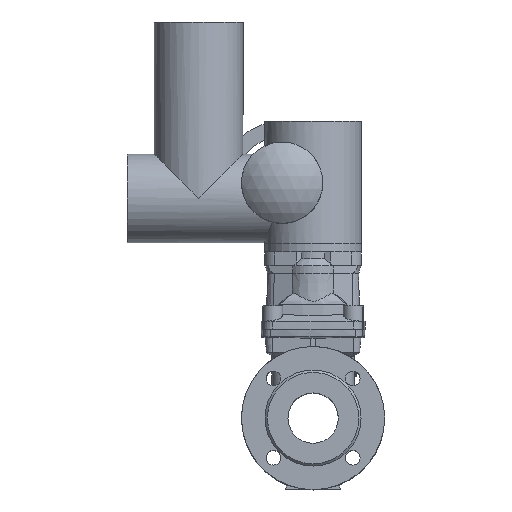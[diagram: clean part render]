
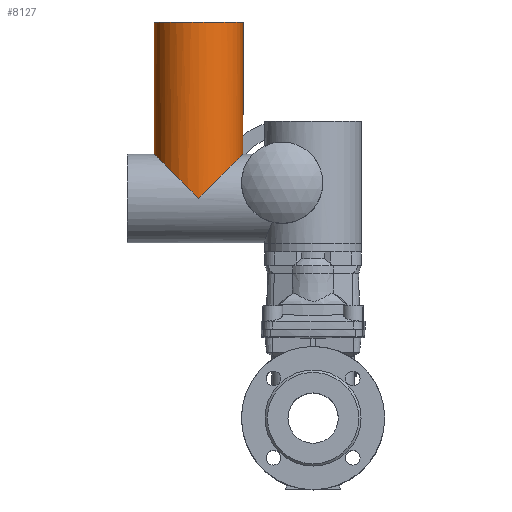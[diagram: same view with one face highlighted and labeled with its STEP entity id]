
A CAD part, top view. The second image highlights one B-rep face of the part: STEP entity #8127.
In plain terms, the highlighted cylindrical face has radius 57.5 mm (diameter 115 mm), a full revolution.
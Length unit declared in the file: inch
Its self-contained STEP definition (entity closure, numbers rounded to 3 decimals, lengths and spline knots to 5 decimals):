
#412 = AXIS2_PLACEMENT_3D ( 'NONE', #4115, #4116, #4117 ) ;
#1072 =( BOUNDED_CURVE ( )  B_SPLINE_CURVE ( 3, ( #4092, #4094, #4100, #4101 ),
 .UNSPECIFIED., .F., .F. ) 
 B_SPLINE_CURVE_WITH_KNOTS ( ( 4, 4 ),
 ( 4.71239, 7.85398 ),
 .UNSPECIFIED. ) 
 CURVE ( )  GEOMETRIC_REPRESENTATION_ITEM ( )  RATIONAL_B_SPLINE_CURVE ( ( 1., 0.333, 0.333, 1. ) ) 
 REPRESENTATION_ITEM ( '' )  );
#1087 =( BOUNDED_CURVE ( )  B_SPLINE_CURVE ( 3, ( #7703, #7698, #7699, #7704 ),
 .UNSPECIFIED., .F., .T. ) 
 B_SPLINE_CURVE_WITH_KNOTS ( ( 4, 4 ),
 ( 1.5708, 4.71239 ),
 .UNSPECIFIED. ) 
 CURVE ( )  GEOMETRIC_REPRESENTATION_ITEM ( )  RATIONAL_B_SPLINE_CURVE ( ( 1., 0.333, 0.333, 1. ) ) 
 REPRESENTATION_ITEM ( '' )  );
#1443 = DIRECTION ( 'NONE',  ( 0., 0., -1. ) ) ;
#1449 = CARTESIAN_POINT ( 'NONE',  ( -5.82677, 11.1811, -0.59055 ) ) ;
#1450 = DIRECTION ( 'NONE',  ( 0., 1., 0. ) ) ;
#2948 = CARTESIAN_POINT ( 'NONE',  ( -5.82677, 11.1811, 1.67323 ) ) ;
#3060 = CARTESIAN_POINT ( 'NONE',  ( -5.82677, 11.1811, -2.85433 ) ) ;
#4092 = CARTESIAN_POINT ( 'NONE',  ( -5.82677, 11.1811, -2.85433 ) ) ;
#4094 = CARTESIAN_POINT ( 'NONE',  ( -1.29921, 15.70866, -2.85433 ) ) ;
#4100 = CARTESIAN_POINT ( 'NONE',  ( -1.29921, 15.70866, 1.67323 ) ) ;
#4101 = CARTESIAN_POINT ( 'NONE',  ( -5.82677, 11.1811, 1.67323 ) ) ;
#4115 = CARTESIAN_POINT ( 'NONE',  ( -5.82677, 20.15748, -0.59055 ) ) ;
#4116 = DIRECTION ( 'NONE',  ( 0., 1., 0. ) ) ;
#4117 = DIRECTION ( 'NONE',  ( 0., 0., -1. ) ) ;
#4427 = FACE_OUTER_BOUND ( 'NONE', #7012, .T. ) ;
#4430 = FACE_OUTER_BOUND ( 'NONE', #7016, .T. ) ;
#4432 = CYLINDRICAL_SURFACE ( 'NONE', #9616, 2.26378 ) ;
#4685 = CIRCLE ( 'NONE', #412, 2.26378 ) ;
#5124 = ORIENTED_EDGE ( 'NONE', *, *, #8310, .F. ) ;
#5125 = ORIENTED_EDGE ( 'NONE', *, *, #8217, .F. ) ;
#5126 = ORIENTED_EDGE ( 'NONE', *, *, #8303, .F. ) ;
#5959 = VERTEX_POINT ( 'NONE', #6505 ) ;
#6505 = CARTESIAN_POINT ( 'NONE',  ( -5.82677, 20.15748, -2.85433 ) ) ;
#7012 = EDGE_LOOP ( 'NONE', ( #5124 ) ) ;
#7016 = EDGE_LOOP ( 'NONE', ( #5125, #5126 ) ) ;
#7698 = CARTESIAN_POINT ( 'NONE',  ( -10.35433, 15.70866, 1.67323 ) ) ;
#7699 = CARTESIAN_POINT ( 'NONE',  ( -10.35433, 15.70866, -2.85433 ) ) ;
#7703 = CARTESIAN_POINT ( 'NONE',  ( -5.82677, 11.1811, 1.67323 ) ) ;
#7704 = CARTESIAN_POINT ( 'NONE',  ( -5.82677, 11.1811, -2.85433 ) ) ;
#8127 = ADVANCED_FACE ( 'NONE', ( #4427, #4430 ), #4432, .T. ) ;
#8217 = EDGE_CURVE ( 'NONE', #8767, #8887, #1087, .T. ) ;
#8303 = EDGE_CURVE ( 'NONE', #8887, #8767, #1072, .T. ) ;
#8310 = EDGE_CURVE ( 'NONE', #5959, #5959, #4685, .T. ) ;
#8767 = VERTEX_POINT ( 'NONE', #2948 ) ;
#8887 = VERTEX_POINT ( 'NONE', #3060 ) ;
#9616 = AXIS2_PLACEMENT_3D ( 'NONE', #1449, #1450, #1443 ) ;
